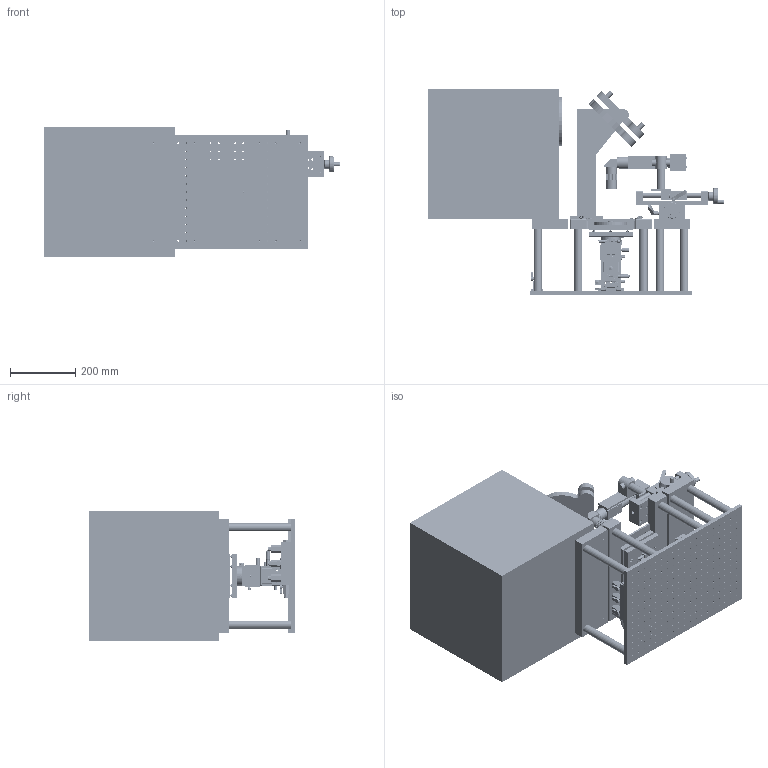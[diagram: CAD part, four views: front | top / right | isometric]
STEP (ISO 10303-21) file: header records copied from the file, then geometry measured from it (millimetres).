
FILE_DESCRIPTION (( 'STEP AP214' ), '1' );
FILE_NAME ('嫖覦炵苀.STEP', '2026-03-27T07:11:36', ( '' ), ( '' ), 'SwSTEP 2.0', 'SolidWorks 2024', '' );
FILE_SCHEMA (( 'AUTOMOTIVE_DESIGN' ));
Length unit declared in the file: millimetre
Products named in the file (62): 动板; 76_____2.STEP; 150mm反射镜; lo-hzg-10-1_1.step; 手动六轴60台面; PL300.stp; 镜头固定转接板; lo-hrs-60_1.step; 把手; 150mm镜架; _________2.STEP; hexagon socket head cap screws gb_GB_FASTENER_SCREWS_HSHCS M2.5X16-N; 真空吸圆盘; 球阀; APO microscope.stp; 挡块1; lo-hld-100n_1; lo-hlu-6.5-2_1 (2).step; 镜头; 掩模版75×75; 消差机构; 光源; _______2.STEP; hexagon socket head cap screws gb_GB_FASTENER_SCREWS_HSHCS M5X12-N; 晶源; 三位五孔T型分气块; GB╱T 835-1988[滚花平头螺钉M6×8]_M6×12; ________-4_2.STEP; 支撑板; 显微镜结构支撑板; ______-0_2.STEP; 底板; APO初步装配; ____-2_2.STEP; 小头手拧; hexagon socket head cap screws gb_GB_FASTENER_SCREWS_HSHCS M6X10-N; 梯形转接; 固定片; 波珠螺丝M10×20; 胶粘掩模版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
Assembly tree (105 placements, depth 5):
  光刻系统
    手动六轴60台面
      LO-HGY-10(M)_1.STEP  x2
        _________2.STEP
        _____2.STEP
        _______2.STEP
        ______-0_2.STEP
        ____-1_2.STEP
        _______________2.STEP
        ____-2_2.STEP
        76_____2.STEP
        ________-3_2.STEP
        ________-4_2.STEP
      lo-hlu-6.5-2_1 (2).step  x2
      lo-hrs-60_1.step
      lo-hzg-10-1_1.step
    消差机构
    消差机构上板
    支撑板
    支撑柱  x10
    底板
    底部燕尾托
    真空吸圆盘
    把手
    挡块1
    固定片  x4
    晶源
    lo-hld-200n_1
    镜头固定转接板
    GB╱T 835-1988[滚花平头螺钉M6×8]_M6×12  x4
    lo-hld-100n_1
    掩模版75×75
    M6宝塔  x3
    球阀分气块
      三位五孔T型分气块
      球阀  x4
      堵头
    波珠螺丝M10×20  x6
    燕尾导轨
    小头手拧
    hexagon socket head cap screws gb_GB_FASTENER_SCREWS_HSHCS M6X10-N  x8
    hexagon socket head cap screws gb_GB_FASTENER_SCREWS_HSHCS M2.5X16-N  x2
    胶粘式掩模版
    显微镜压片  x4
    胶粘掩模版
    hexagon socket head cap screws gb_GB_FASTENER_SCREWS_HSHCS M5X12-N  x4
    显微镜结构支撑板  x2
    150mm反射镜
    APO初步装配
      APO microscope(2)
        APO microscope.stp
          PL300.stp
          SMART-4K30.stp
      梯形转接
      镜头
    转接
    支柱
    150mm镜架
      定板
      动板
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Bounding box: 907.38 x 632 x 400 mm (x, y, z)
Volume: 75322191 mm3; surface area: 3137429.4 mm2
Topology: 149 solids, 168 shells, 9396 faces, 22796 edges, 14086 vertices
Faces by surface type: plane 4310, cylinder 3161, cone 1649, bspline 102, torus 98, sphere 76
Entity records: 204930 total; most frequent: CARTESIAN_POINT 67218, ORIENTED_EDGE 28508, DIRECTION 26755, EDGE_CURVE 14326, AXIS2_PLACEMENT_3D 10613, VERTEX_POINT 9181, EDGE_LOOP 7271, ADVANCED_FACE 5776
